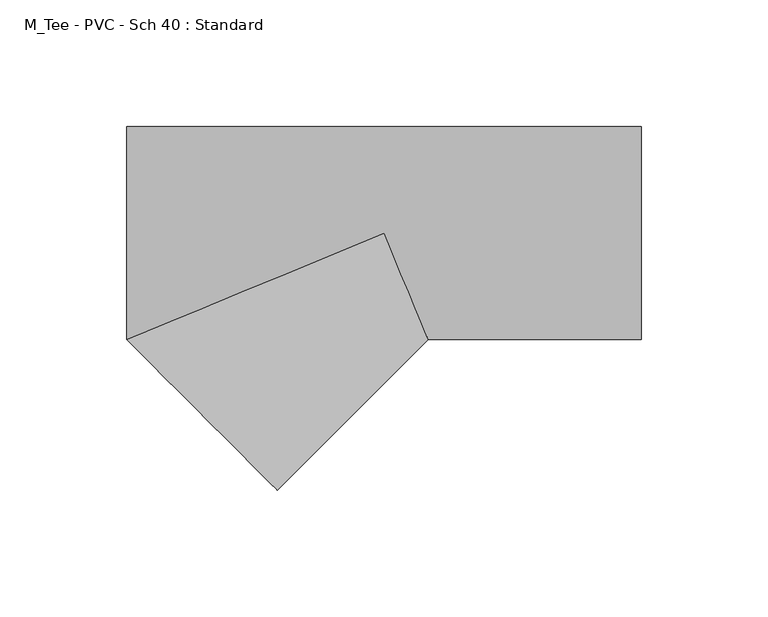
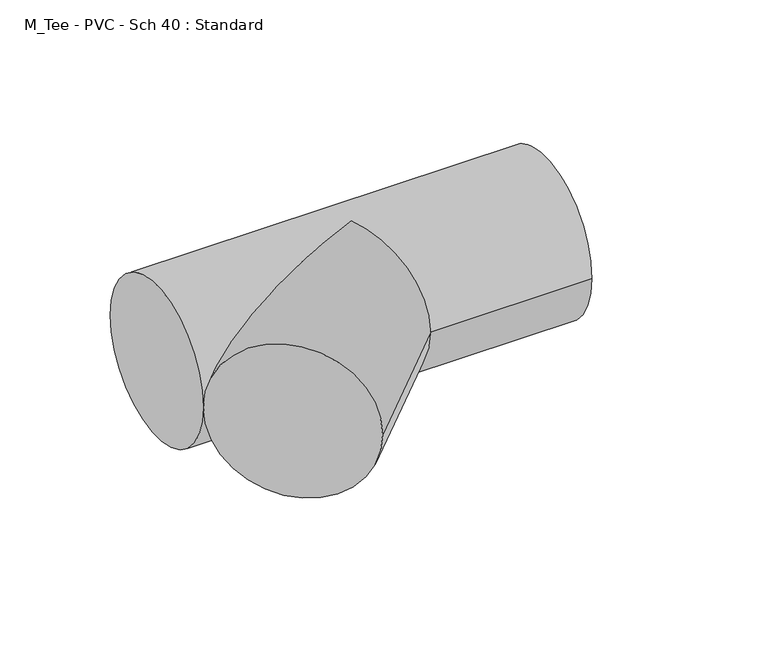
"""IFC4 building model written with IfcOpenShell, lengths in millimetres: pipe fitting geometry, M_Tee - PVC - Sch 40 : Standard."""

import ifcopenshell
import ifcopenshell.guid

model = None  # the IFC model being written
_history = None  # IfcOwnerHistory: only IFC2X3 demands one
_inside = {}  # id of a spatial element -> (the spatial element, [elements in it])
_under = {}  # id of a project, library or spatial element -> (it, [spatial elements below it])
_declared = {}  # id of a project -> (the project, [libraries it declares])
_typed = {}  # id of a type object -> (the type object, [elements of that type])
_made_of = {}  # id of a material, layer set ... -> (it, [elements and type objects made of it])


def new_model(schema):
    """Start an empty IFC model of exactly this schema.

    Asked for "IFC4X3", IfcOpenShell would pick the latest addendum, in which some entities
    have other attributes; the version numbers below select the first issue.
    IFC2X3 requires an IfcOwnerHistory on every rooted entity: one is made here for all.
    """
    global model, _history
    if schema == "IFC4X3":
        model = ifcopenshell.file(schema_version=(4, 3, 0, 0))
    else:
        model = ifcopenshell.file(schema=schema)
    _inside.clear()
    _under.clear()
    _declared.clear()
    _typed.clear()
    _made_of.clear()
    _history = None
    if model.schema == "IFC2X3":
        org = make("IfcOrganization", Name="unknown")
        user = make(
            "IfcPersonAndOrganization",
            ThePerson=make("IfcPerson", FamilyName="unknown"),
            TheOrganization=org,
        )
        app = make(
            "IfcApplication",
            ApplicationDeveloper=org,
            Version="unknown",
            ApplicationFullName="unknown",
            ApplicationIdentifier="unknown",
        )
        _history = make(
            "IfcOwnerHistory",
            OwningUser=user,
            OwningApplication=app,
            ChangeAction="ADDED",
            CreationDate=0,
        )
    return model


def make(cls, **values):
    """One entity of the class cls with the attributes given. An attribute that is None is left unset."""
    return model.create_entity(
        cls, **{name: value for name, value in values.items() if value is not None}
    )


def rooted(cls, **values):
    """An entity with a GlobalId (a new one), such as an element, a storey or a relation."""
    return make(cls, GlobalId=ifcopenshell.guid.new(), OwnerHistory=_history, **values)


def si_unit(unit_type, name, prefix=None):
    """IfcSIUnit, for example si_unit("LENGTHUNIT", "METRE", prefix="MILLI")."""
    return make("IfcSIUnit", UnitType=unit_type, Prefix=prefix, Name=name)


def assignment(units):
    """IfcUnitAssignment: the units of a project."""
    return None if units is None else make("IfcUnitAssignment", Units=units)


def point(xyz):
    """IfcCartesianPoint."""
    return None if xyz is None else make("IfcCartesianPoint", Coordinates=xyz)


def direction(xyz):
    """IfcDirection."""
    return None if xyz is None else make("IfcDirection", DirectionRatios=xyz)


def frame(location, z_axis=None, x_axis=None):
    """IfcAxis2Placement3D, a coordinate frame: its origin and axes. An axis left out is left unset."""
    return make(
        "IfcAxis2Placement3D",
        Location=point(location),
        Axis=direction(z_axis),
        RefDirection=direction(x_axis),
    )


def origin():
    """The frame at (0, 0, 0) with its axes left unset."""
    return frame((0.0, 0.0, 0.0))


def place(relative_to, where):
    """IfcLocalPlacement: puts the frame where relative to a parent placement (None: the world)."""
    return make(
        "IfcLocalPlacement", PlacementRelTo=relative_to, RelativePlacement=where
    )


def context(
    kind, dimensions, precision=None, world=None, true_north=None, identifier=None
):
    """IfcGeometricRepresentationContext, for example the 3D "Model" context."""
    return make(
        "IfcGeometricRepresentationContext",
        ContextIdentifier=identifier,
        ContextType=kind,
        CoordinateSpaceDimension=dimensions,
        Precision=precision,
        WorldCoordinateSystem=world,
        TrueNorth=true_north,
    )


def project(units=None, contexts=None):
    """IfcProject with its units and contexts."""
    return rooted(
        "IfcProject",
        Name="project",
        RepresentationContexts=contexts,
        UnitsInContext=assignment(units),
    )


def spatial(cls, under=None, at=None, **own):
    """A site, building, storey or space (cls), placed at a placement, below another one or the project."""
    s = rooted(cls, ObjectPlacement=at, **own)
    if under is not None:
        _under.setdefault(under.id(), (under, []))[1].append(s)
    return s


def circle_curve(where, radius):
    """IfcCircle in the frame where."""
    return make("IfcCircle", Position=where, Radius=radius)


def ellipse_curve(where, semi_axis1, semi_axis2):
    """IfcEllipse in the frame where."""
    return make(
        "IfcEllipse", Position=where, SemiAxis1=semi_axis1, SemiAxis2=semi_axis2
    )


def shape(context_of_items, identifier, shape_type, items):
    """IfcShapeRepresentation: the items that make up one representation, for example the "Body"."""
    return make(
        "IfcShapeRepresentation",
        ContextOfItems=context_of_items,
        RepresentationIdentifier=identifier,
        RepresentationType=shape_type,
        Items=items,
    )


def source(mapping_origin, context_of_items, identifier, shape_type, items):
    """IfcRepresentationMap: a shape defined once, which mapped items show again and again."""
    return make(
        "IfcRepresentationMap",
        MappingOrigin=mapping_origin,
        MappedRepresentation=shape(context_of_items, identifier, shape_type, items),
    )


def transform(
    local_origin,
    x_axis=None,
    y_axis=None,
    z_axis=None,
    scale=None,
    scale2=None,
    scale3=None,
    uniform=True,
):
    """IfcCartesianTransformationOperator3D, or its non-uniform kind. x_axis, y_axis, z_axis: its Axis1, 2, 3."""
    if uniform:
        return make(
            "IfcCartesianTransformationOperator3D",
            Axis1=direction(x_axis),
            Axis2=direction(y_axis),
            LocalOrigin=point(local_origin),
            Scale=scale,
            Axis3=direction(z_axis),
        )
    return make(
        "IfcCartesianTransformationOperator3DnonUniform",
        Axis1=direction(x_axis),
        Axis2=direction(y_axis),
        LocalOrigin=point(local_origin),
        Scale=scale,
        Axis3=direction(z_axis),
        Scale2=scale2,
        Scale3=scale3,
    )


def mapped(mapping_source, mapping_target):
    """IfcMappedItem: shows the shape of a source again, moved by a transform."""
    return make(
        "IfcMappedItem", MappingSource=mapping_source, MappingTarget=mapping_target
    )


def made_of(thing, what):
    """Note that an element or type object is made of a material, layer set ...; save() writes the relation."""
    if what is not None:
        _made_of.setdefault(what.id(), (what, []))[1].append(thing)
    return thing


def element(
    cls,
    number,
    at=None,
    inside=None,
    cuts=None,
    type_object=None,
    material=None,
    context=None,
    identifier="Body",
    shape_type=None,
    held_by="IfcProductDefinitionShape",
    body=None,
    shapes=None,
    **own,
):
    """One element of the class cls, such as IfcWall. Its Tag is "e" and its number.

    at: its placement. inside: the storey or other place that contains it. cuts: it is an
    opening in that element (IfcRelVoidsElement). A single representation is given by context,
    identifier, shape_type and body (its items); several are given by shapes. held_by: the class
    of the entity that holds the representations. save() writes the other relations.
    """
    e = rooted(cls, Tag="e%d" % number, ObjectPlacement=at, **own)
    if body is not None:
        shapes = [shape(context, identifier, shape_type, body)]
    if shapes is not None:
        e.Representation = make(held_by, Representations=shapes)
    if inside is not None:
        _inside.setdefault(inside.id(), (inside, []))[1].append(e)
    if cuts is not None:
        rooted(
            "IfcRelVoidsElement", RelatingBuildingElement=cuts, RelatedOpeningElement=e
        )
    if type_object is not None:
        _typed.setdefault(type_object.id(), (type_object, []))[1].append(e)
    return made_of(e, material)


def aggregate(whole, parts):
    """IfcRelAggregates: a whole, such as a stair, and the parts it consists of."""
    return rooted("IfcRelAggregates", RelatingObject=whole, RelatedObjects=parts)


def save(model, path):
    """Write the relations noted so far, then the file.

    IfcRelAggregates (storeys below a building ...), IfcRelContainedInSpatialStructure (elements
    in a storey), IfcRelDefinesByType, IfcRelAssociatesMaterial and IfcRelDeclares: one each for
    every whole, place, type object, material and project.
    """
    for whole, parts in _under.values():
        aggregate(whole, parts)
    for where, things in _inside.values():
        rooted(
            "IfcRelContainedInSpatialStructure",
            RelatedElements=things,
            RelatingStructure=where,
        )
    for kind, things in _typed.values():
        rooted("IfcRelDefinesByType", RelatedObjects=things, RelatingType=kind)
    for what, things in _made_of.values():
        rooted("IfcRelAssociatesMaterial", RelatedObjects=things, RelatingMaterial=what)
    for by, libraries in _declared.values():
        rooted("IfcRelDeclares", RelatingContext=by, RelatedDefinitions=libraries)
    model.write(path)


def plane_surface(at):
    """IfcPlane: the flat surface through the origin of the frame at, square to its z axis."""
    return make("IfcPlane", Position=at)


def cylinder_surface(at, radius):
    """IfcCylindricalSurface: all points at the distance radius from the z axis of the frame at."""
    return make("IfcCylindricalSurface", Position=at, Radius=radius)


def advanced_brep(points, edges, surfaces, faces):
    """IfcAdvancedBrep: a solid bounded by faces that lie on surfaces and meet in shared edges.

    An edge is (start, end): straight between two places in points (the first is 0);
    or (start, end, curve); or (start, end, curve, False) where it runs against its curve.
    A face is (place in surfaces, loops), or (place, loops, False) where it looks against
    its surface's normal. A loop lists edges by number (the first is 1), with a minus sign
    where the edge is run from its end to its start. The first loop is the outer one.
    """
    corners = [point(p) for p in points]
    vertices = [make("IfcVertexPoint", VertexGeometry=c) for c in corners]
    made = []
    for start, end, *more in edges:
        made.append(
            make(
                "IfcEdgeCurve",
                EdgeStart=vertices[start],
                EdgeEnd=vertices[end],
                EdgeGeometry=more[0] if more else make("IfcPolyline", Points=[corners[start], corners[end]]),
                SameSense=more[1] if len(more) > 1 else True,
            )
        )
    hull = []
    for where, loops, *sense in faces:
        bounds = []
        for j, loop in enumerate(loops):
            ring = [make("IfcOrientedEdge", EdgeElement=made[abs(k) - 1], Orientation=k > 0) for k in loop]
            bounds.append(
                make(
                    "IfcFaceOuterBound" if j == 0 else "IfcFaceBound",
                    Bound=make("IfcEdgeLoop", EdgeList=ring),
                    Orientation=True,
                )
            )
        hull.append(make("IfcAdvancedFace", Bounds=bounds, FaceSurface=surfaces[where], SameSense=sense[0] if sense else True))
    return make("IfcAdvancedBrep", Outer=make("IfcClosedShell", CfsFaces=hull))


def m_tee_pvc_sch_40_standard_f738ad92(model_context):
    return source(origin(), model_context, "Body", "AdvancedBrep", [
        advanced_brep(
        [(-101.587656, -42.0751, 0.0), (-101.587656, 42.0751, 0.0), (101.587656, -42.0751, 0.0), (101.587656, 42.0751, 0.0), (0.0, 0.0, 42.0751), (17.426468, -42.0751, 0.0), (0.0, 0.0, -42.0751), (-42.0883636, -101.5821615, 0.0)],
        [
            (0, 1, circle_curve(frame((-101.587656, 0.0, 0.0), z_axis=(-1.0, 0.0, 0.0), x_axis=(0.0, 1.0, 0.0)), 42.0751)),
            (1, 0, circle_curve(frame((-101.587656, 0.0, 0.0), z_axis=(-1.0, 0.0, 0.0), x_axis=(0.0, 1.0, 0.0)), 42.0751)),
            (2, 3, circle_curve(frame((101.587656, 0.0, 0.0), z_axis=(1.0, 0.0, 0.0), x_axis=(0.0, 1.0, 0.0)), 42.0751)),
            (3, 2, circle_curve(frame((101.587656, 0.0, 0.0), z_axis=(1.0, 0.0, 0.0), x_axis=(0.0, 1.0, 0.0)), 42.0751)),
            (0, 4, ellipse_curve(frame((0.0, 0.0, 0.0), z_axis=(-0.38265327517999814, 0.9238920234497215, 0.0), x_axis=(-0.9238920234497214, -0.38265327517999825, 0.0)), 109.9561999, 42.0751)),
            (4, 5, ellipse_curve(frame((0.0, 0.0, 0.0), z_axis=(0.9238920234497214, 0.38265327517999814, 0.0), x_axis=(-0.3826532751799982, 0.9238920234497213, 0.0)), 45.5411443, 42.0751)),
            (5, 2),
            (3, 1),
            (5, 6, ellipse_curve(frame((0.0, 0.0, 0.0), z_axis=(0.9238920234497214, 0.38265327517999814, 0.0), x_axis=(-0.3826532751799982, 0.9238920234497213, 0.0)), 45.5411443, 42.0751)),
            (6, 0, ellipse_curve(frame((0.0, 0.0, 0.0), z_axis=(-0.38265327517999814, 0.9238920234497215, 0.0), x_axis=(-0.9238920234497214, -0.38265327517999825, 0.0)), 109.9561999, 42.0751)),
            (0, 7, circle_curve(frame((-71.8380098, -71.8286307, 0.0), z_axis=(-0.707152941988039, -0.7070606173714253, 0.0), x_axis=(0.7070606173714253, -0.707152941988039, 0.0)), 42.0751)),
            (7, 0, circle_curve(frame((-71.8380098, -71.8286307, 0.0), z_axis=(-0.707152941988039, -0.7070606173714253, 0.0), x_axis=(0.7070606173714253, -0.707152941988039, 0.0)), 42.0751)),
            (7, 5),
        ],
        [
            plane_surface(frame((-101.587656, 0.0, 0.0), z_axis=(-1.0, 0.0, 0.0), x_axis=(0.0, 0.0, 1.0))),
            plane_surface(frame((101.587656, 0.0, 0.0), z_axis=(1.0, 0.0, 0.0), x_axis=(0.0, 0.0, 1.0))),
            cylinder_surface(frame((-101.587656, 0.0, 0.0), z_axis=(-1.0, 0.0, 0.0), x_axis=(0.0, 1.0, 0.0)), 42.0751),
            plane_surface(frame((-71.8380098, -71.8286307, 0.0), z_axis=(-0.707152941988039, -0.7070606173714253, 0.0), x_axis=(0.0, 0.0, 1.0))),
            cylinder_surface(frame((0.0, 0.0, 0.0), z_axis=(0.707152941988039, 0.7070606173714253, 0.0), x_axis=(0.7070606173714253, -0.707152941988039, 0.0)), 42.0751),
        ],
        [
            (0, [[1, 2]]),
            (1, [[3, 4]]),
            (2, [[-1, 5, 6, 7, -4, 8]]),
            (2, [[-2, -8, -3, -7, 9, 10]]),
            (3, [[11, 12]]),
            (4, [[-12, 13, -6, -5]]),
            (4, [[-11, -10, -9, -13]]),
        ],
    ),
    ])


if __name__ == "__main__":
    model = new_model("IFC4")
    model_context = context("Model", 3, world=origin())
    ifc_project = project(units=[si_unit("LENGTHUNIT", "METRE", prefix="MILLI")], contexts=[model_context])
    site = spatial("IfcSite", under=ifc_project)
    building = spatial("IfcBuilding", under=site)
    placement = place(None, origin())
    m_tee_pvc_sch_40_standard_shape = m_tee_pvc_sch_40_standard_f738ad92(model_context)
    element("IfcPipeFitting", 1, ObjectType="M_Tee - PVC - Sch 40 : Standard", at=placement, inside=building, context=model_context, shape_type="MappedRepresentation", body=[
        mapped(m_tee_pvc_sch_40_standard_shape, transform((0.0, 0.0, 0.0), x_axis=(1.0, 0.0, 0.0), y_axis=(0.0, 1.0, 0.0), z_axis=(0.0, 0.0, 1.0))),
    ])
    save(model, "model.ifc")
